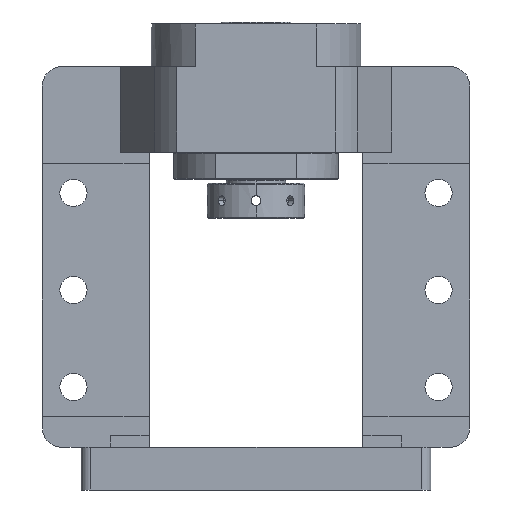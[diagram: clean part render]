
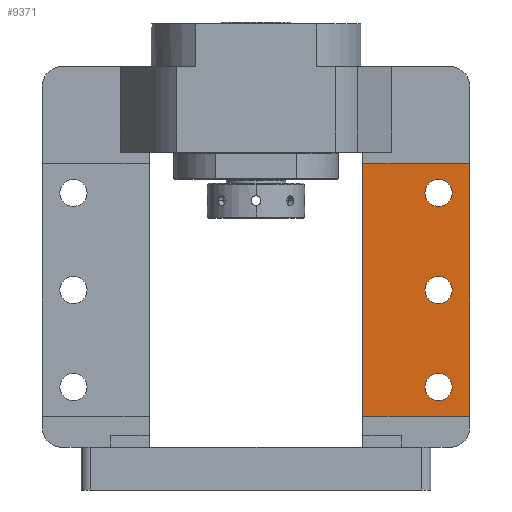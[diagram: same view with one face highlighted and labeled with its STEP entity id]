
A CAD part, front view. The second image highlights one B-rep face of the part: STEP entity #9371.
In plain terms, the highlighted planar face has unit normal (0, -1, 0).
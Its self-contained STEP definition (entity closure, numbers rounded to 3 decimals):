
#124 = ORIENTED_EDGE ( 'NONE', *, *, #13789, .T. ) ;
#763 = CIRCLE ( 'NONE', #14345, 7. ) ;
#812 = CARTESIAN_POINT ( 'NONE',  ( 94., 0., 53. ) ) ;
#921 = VERTEX_POINT ( 'NONE', #13953 ) ;
#1024 = AXIS2_PLACEMENT_3D ( 'NONE', #7526, #20129, #9355 ) ;
#1134 = DIRECTION ( 'NONE',  ( 0., 0., -1. ) ) ;
#1387 = DIRECTION ( 'NONE',  ( 0., 0., -1. ) ) ;
#1509 = VECTOR ( 'NONE', #7895, 1000. ) ;
#1561 = DIRECTION ( 'NONE',  ( 1., 0., 0. ) ) ;
#1682 = EDGE_CURVE ( 'NONE', #22178, #9961, #20355, .T. ) ;
#1802 = CARTESIAN_POINT ( 'NONE',  ( 55., 0., 168. ) ) ;
#2568 = EDGE_CURVE ( 'NONE', #11197, #9428, #16678, .T. ) ;
#2654 = DIRECTION ( 'NONE',  ( 0., 0., -1. ) ) ;
#2825 = FACE_BOUND ( 'NONE', #9958, .T. ) ;
#3402 = FACE_BOUND ( 'NONE', #21434, .T. ) ;
#3491 = VERTEX_POINT ( 'NONE', #12290 ) ;
#3722 = ORIENTED_EDGE ( 'NONE', *, *, #14639, .F. ) ;
#4610 = ORIENTED_EDGE ( 'NONE', *, *, #16016, .F. ) ;
#4666 = CARTESIAN_POINT ( 'NONE',  ( 94., 0., 103. ) ) ;
#4811 = VERTEX_POINT ( 'NONE', #7723 ) ;
#4939 = AXIS2_PLACEMENT_3D ( 'NONE', #19492, #23287, #12572 ) ;
#5692 = DIRECTION ( 'NONE',  ( 0., 0., -1. ) ) ;
#5986 = CARTESIAN_POINT ( 'NONE',  ( 110., 0., 168. ) ) ;
#6088 = CARTESIAN_POINT ( 'NONE',  ( 110., 0., 225. ) ) ;
#6260 = EDGE_CURVE ( 'NONE', #4811, #14395, #763, .T. ) ;
#6500 = DIRECTION ( 'NONE',  ( 0., 0., -1. ) ) ;
#7098 = VECTOR ( 'NONE', #13206, 1000. ) ;
#7526 = CARTESIAN_POINT ( 'NONE',  ( 94., 0., 153. ) ) ;
#7639 = FACE_OUTER_BOUND ( 'NONE', #13098, .T. ) ;
#7723 = CARTESIAN_POINT ( 'NONE',  ( 94., 0., 160. ) ) ;
#7895 = DIRECTION ( 'NONE',  ( 0., 0., -1. ) ) ;
#8467 = AXIS2_PLACEMENT_3D ( 'NONE', #812, #13505, #2654 ) ;
#8703 = AXIS2_PLACEMENT_3D ( 'NONE', #13658, #13633, #13581 ) ;
#8858 = LINE ( 'NONE', #12420, #18435 ) ;
#9055 = EDGE_CURVE ( 'NONE', #9961, #22178, #19493, .T. ) ;
#9325 = CIRCLE ( 'NONE', #19005, 7. ) ;
#9355 = DIRECTION ( 'NONE',  ( 0., 0., -1. ) ) ;
#9371 = ADVANCED_FACE ( 'NONE', ( #3402, #2825, #17807, #7639 ), #14234, .T. ) ;
#9373 = CARTESIAN_POINT ( 'NONE',  ( 94., 0., 60. ) ) ;
#9428 = VERTEX_POINT ( 'NONE', #1802 ) ;
#9943 = EDGE_LOOP ( 'NONE', ( #22559, #14750 ) ) ;
#9958 = EDGE_LOOP ( 'NONE', ( #3722, #10417 ) ) ;
#9961 = VERTEX_POINT ( 'NONE', #15145 ) ;
#10206 = EDGE_CURVE ( 'NONE', #20603, #3491, #9325, .T. ) ;
#10417 = ORIENTED_EDGE ( 'NONE', *, *, #10206, .F. ) ;
#11197 = VERTEX_POINT ( 'NONE', #5986 ) ;
#12016 = DIRECTION ( 'NONE',  ( 0., -1., 0. ) ) ;
#12112 = CIRCLE ( 'NONE', #8467, 7. ) ;
#12134 = VECTOR ( 'NONE', #5692, 1000. ) ;
#12262 = DIRECTION ( 'NONE',  ( 0., -1., 0. ) ) ;
#12290 = CARTESIAN_POINT ( 'NONE',  ( 94., 0., 46. ) ) ;
#12420 = CARTESIAN_POINT ( 'NONE',  ( 110., 0., 38. ) ) ;
#12572 = DIRECTION ( 'NONE',  ( 0., 0., -1. ) ) ;
#12660 = AXIS2_PLACEMENT_3D ( 'NONE', #4666, #17308, #6500 ) ;
#12862 = CARTESIAN_POINT ( 'NONE',  ( 94., 0., 146. ) ) ;
#12880 = CARTESIAN_POINT ( 'NONE',  ( 55., 0., 225. ) ) ;
#13098 = EDGE_LOOP ( 'NONE', ( #16221, #19589, #124, #15282 ) ) ;
#13206 = DIRECTION ( 'NONE',  ( -1., 0., 0. ) ) ;
#13505 = DIRECTION ( 'NONE',  ( 0., -1., 0. ) ) ;
#13581 = DIRECTION ( 'NONE',  ( 0., 0., -1. ) ) ;
#13633 = DIRECTION ( 'NONE',  ( 0., -1., 0. ) ) ;
#13658 = CARTESIAN_POINT ( 'NONE',  ( 94., 0., 103. ) ) ;
#13789 = EDGE_CURVE ( 'NONE', #9428, #17090, #16330, .T. ) ;
#13953 = CARTESIAN_POINT ( 'NONE',  ( 110., 0., 38. ) ) ;
#14080 = CARTESIAN_POINT ( 'NONE',  ( 55., 0., 38. ) ) ;
#14234 = PLANE ( 'NONE',  #4939 ) ;
#14345 = AXIS2_PLACEMENT_3D ( 'NONE', #22965, #12262, #1387 ) ;
#14395 = VERTEX_POINT ( 'NONE', #12862 ) ;
#14639 = EDGE_CURVE ( 'NONE', #3491, #20603, #12112, .T. ) ;
#14750 = ORIENTED_EDGE ( 'NONE', *, *, #9055, .F. ) ;
#15037 = CARTESIAN_POINT ( 'NONE',  ( 94., 0., 96. ) ) ;
#15145 = CARTESIAN_POINT ( 'NONE',  ( 94., 0., 110. ) ) ;
#15282 = ORIENTED_EDGE ( 'NONE', *, *, #20857, .T. ) ;
#16016 = EDGE_CURVE ( 'NONE', #14395, #4811, #20498, .T. ) ;
#16221 = ORIENTED_EDGE ( 'NONE', *, *, #19674, .F. ) ;
#16330 = LINE ( 'NONE', #12880, #12134 ) ;
#16678 = LINE ( 'NONE', #18544, #7098 ) ;
#17090 = VERTEX_POINT ( 'NONE', #14080 ) ;
#17308 = DIRECTION ( 'NONE',  ( 0., -1., 0. ) ) ;
#17807 = FACE_BOUND ( 'NONE', #9943, .T. ) ;
#18435 = VECTOR ( 'NONE', #1561, 1000. ) ;
#18544 = CARTESIAN_POINT ( 'NONE',  ( 110., 0., 168. ) ) ;
#19005 = AXIS2_PLACEMENT_3D ( 'NONE', #22715, #12016, #1134 ) ;
#19196 = ORIENTED_EDGE ( 'NONE', *, *, #6260, .F. ) ;
#19493 = CIRCLE ( 'NONE', #12660, 7. ) ;
#19492 = CARTESIAN_POINT ( 'NONE',  ( 110., 0., 225. ) ) ;
#19589 = ORIENTED_EDGE ( 'NONE', *, *, #2568, .T. ) ;
#19674 = EDGE_CURVE ( 'NONE', #11197, #921, #20697, .T. ) ;
#20129 = DIRECTION ( 'NONE',  ( 0., -1., 0. ) ) ;
#20355 = CIRCLE ( 'NONE', #8703, 7. ) ;
#20498 = CIRCLE ( 'NONE', #1024, 7. ) ;
#20603 = VERTEX_POINT ( 'NONE', #9373 ) ;
#20697 = LINE ( 'NONE', #6088, #1509 ) ;
#20857 = EDGE_CURVE ( 'NONE', #17090, #921, #8858, .T. ) ;
#21434 = EDGE_LOOP ( 'NONE', ( #4610, #19196 ) ) ;
#22178 = VERTEX_POINT ( 'NONE', #15037 ) ;
#22559 = ORIENTED_EDGE ( 'NONE', *, *, #1682, .F. ) ;
#22715 = CARTESIAN_POINT ( 'NONE',  ( 94., 0., 53. ) ) ;
#22965 = CARTESIAN_POINT ( 'NONE',  ( 94., 0., 153. ) ) ;
#23287 = DIRECTION ( 'NONE',  ( 0., -1., 0. ) ) ;
